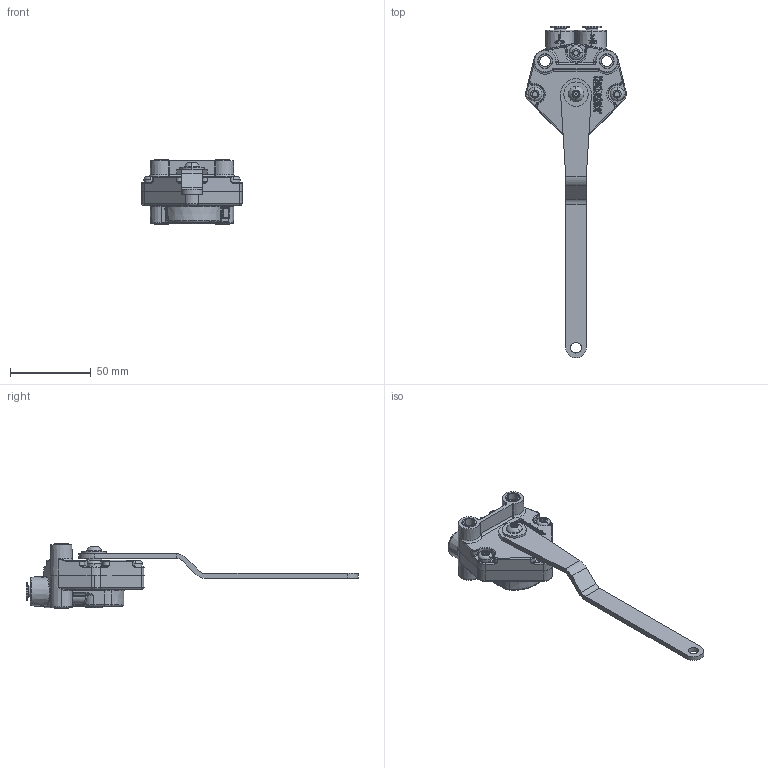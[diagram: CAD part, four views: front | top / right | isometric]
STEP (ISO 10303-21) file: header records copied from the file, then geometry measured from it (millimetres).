
FILE_DESCRIPTION (( 'STEP AP203' ), '1' );
FILE_NAME ('52520B-Q1.STEP', '2020-06-15T19:47:05', ( '' ), ( '' ), 'SwSTEP 2.0', 'SolidWorks 2016', '' );
FILE_SCHEMA (( 'CONFIG_CONTROL_DESIGN' ));
Length unit declared in the file: inch
Products named in the file (1): 52520B-Q1
Bounding box: 62.24 x 205.18 x 40 mm (x, y, z)
Volume: 77652.6 mm3; surface area: 22945.9 mm2
Topology: 1 solids, 1 shells, 1628 faces, 4207 edges, 2670 vertices
Faces by surface type: bspline 633, plane 481, cylinder 291, cone 113, torus 79, sphere 31
Entity records: 86389 total; most frequent: CARTESIAN_POINT 51184, ORIENTED_EDGE 8362, DIRECTION 5547, EDGE_CURVE 4181, VERTEX_POINT 2668, VECTOR 1915, LINE 1915, AXIS2_PLACEMENT_3D 1816
